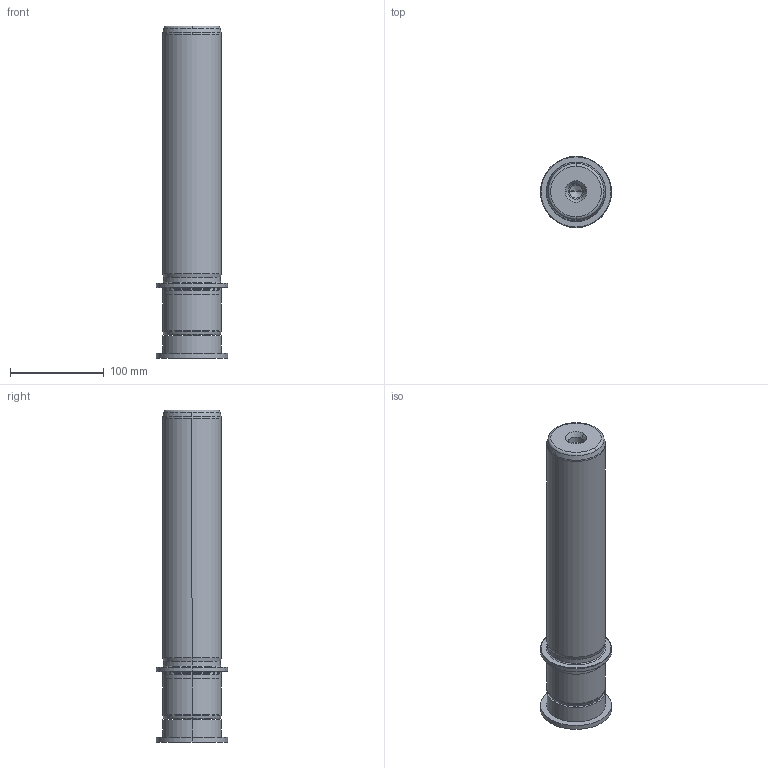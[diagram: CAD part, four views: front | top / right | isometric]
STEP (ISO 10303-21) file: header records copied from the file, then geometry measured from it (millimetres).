
FILE_DESCRIPTION((''),'2;1');
FILE_NAME('P22_063_280.stp','2009-02-06T15:52:28',(''),(''),'Mechanical Desktop 2009','Mechanical Desktop 2009',', , ');
FILE_SCHEMA(('CONFIG_CONTROL_DESIGN'));
Length unit declared in the file: millimetre
Products named in the file (2): Product; blmdl1
Assembly tree (1 placements, depth 2):
  Product
    blmdl1
Bounding box: 76 x 76 x 355 mm (x, y, z)
Volume: 1100352.9 mm3; surface area: 97578.3 mm2
Topology: 3 solids, 3 shells, 99 faces, 237 edges, 149 vertices
Faces by surface type: cylinder 32, cone 28, plane 19, torus 10, bspline 10
Entity records: 3419 total; most frequent: CARTESIAN_POINT 923, DIRECTION 570, ORIENTED_EDGE 466, AXIS2_PLACEMENT_3D 246, EDGE_CURVE 233, CIRCLE 155, VERTEX_POINT 149, EDGE_LOOP 110
